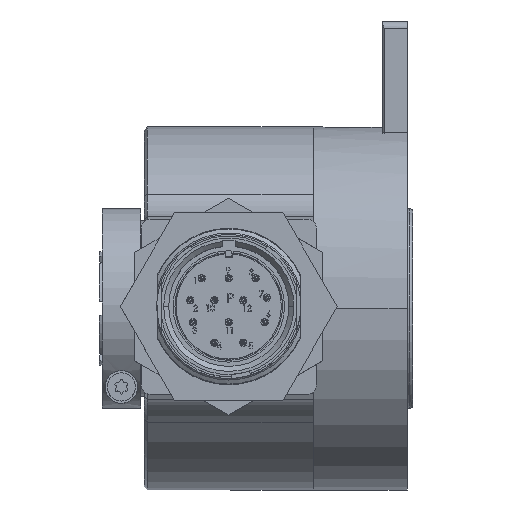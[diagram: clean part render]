
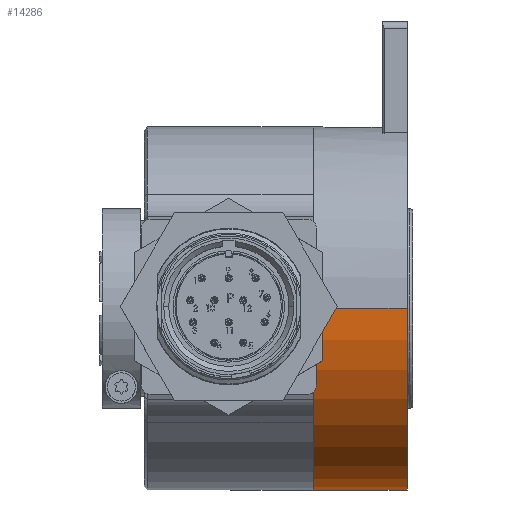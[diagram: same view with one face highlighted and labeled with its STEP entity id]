
A CAD part, top view. The second image highlights one B-rep face of the part: STEP entity #14286.
In plain terms, the highlighted cylindrical face has radius 29 mm (diameter 58 mm), a partial arc.
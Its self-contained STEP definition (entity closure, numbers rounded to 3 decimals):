
#2456 = ORIENTED_EDGE ( 'NONE', *, *, #33459, .F. ) ;
#2919 = ORIENTED_EDGE ( 'NONE', *, *, #42137, .T. ) ;
#3103 = CARTESIAN_POINT ( 'NONE',  ( 15., 0., -29. ) ) ;
#3139 = CARTESIAN_POINT ( 'NONE',  ( 15., 0., 29. ) ) ;
#10326 = EDGE_CURVE ( 'NONE', #49968, #25843, #23445, .T. ) ;
#11659 = CARTESIAN_POINT ( 'NONE',  ( 0., 0., -29. ) ) ;
#11827 = CARTESIAN_POINT ( 'NONE',  ( 0., 0., 0. ) ) ;
#12672 = EDGE_CURVE ( 'NONE', #49968, #14263, #41289, .T. ) ;
#12905 = FACE_OUTER_BOUND ( 'NONE', #38599, .T. ) ;
#13218 = CARTESIAN_POINT ( 'NONE',  ( -21.996, 0., 0. ) ) ;
#14074 = AXIS2_PLACEMENT_3D ( 'NONE', #61073, #53058, #56021 ) ;
#14263 = VERTEX_POINT ( 'NONE', #3139 ) ;
#14286 = ADVANCED_FACE ( 'NONE', ( #12905 ), #17974, .T. ) ;
#17974 = CYLINDRICAL_SURFACE ( 'NONE', #49479, 29. ) ;
#20538 = CIRCLE ( 'NONE', #55778, 29. ) ;
#23445 = LINE ( 'NONE', #38263, #45908 ) ;
#25843 = VERTEX_POINT ( 'NONE', #11659 ) ;
#32192 = DIRECTION ( 'NONE',  ( -1., 0., 0. ) ) ;
#33224 = LINE ( 'NONE', #58390, #57186 ) ;
#33459 = EDGE_CURVE ( 'NONE', #25843, #37778, #20538, .T. ) ;
#33581 = ORIENTED_EDGE ( 'NONE', *, *, #12672, .T. ) ;
#37778 = VERTEX_POINT ( 'NONE', #38105 ) ;
#38105 = CARTESIAN_POINT ( 'NONE',  ( 0., 0., 29. ) ) ;
#38263 = CARTESIAN_POINT ( 'NONE',  ( -21.996, 0., -29. ) ) ;
#38599 = EDGE_LOOP ( 'NONE', ( #57789, #33581, #2919, #2456 ) ) ;
#41289 = CIRCLE ( 'NONE', #14074, 29. ) ;
#42120 = DIRECTION ( 'NONE',  ( 0., 0., 1. ) ) ;
#42137 = EDGE_CURVE ( 'NONE', #14263, #37778, #33224, .T. ) ;
#45908 = VECTOR ( 'NONE', #61918, 1000. ) ;
#46066 = DIRECTION ( 'NONE',  ( 0., 0., 1. ) ) ;
#48937 = DIRECTION ( 'NONE',  ( -1., 0., 0. ) ) ;
#49479 = AXIS2_PLACEMENT_3D ( 'NONE', #13218, #32192, #46066 ) ;
#49968 = VERTEX_POINT ( 'NONE', #3103 ) ;
#53058 = DIRECTION ( 'NONE',  ( -1., 0., 0. ) ) ;
#55778 = AXIS2_PLACEMENT_3D ( 'NONE', #11827, #60108, #42120 ) ;
#56021 = DIRECTION ( 'NONE',  ( 0., 0., 1. ) ) ;
#57186 = VECTOR ( 'NONE', #48937, 1000. ) ;
#57789 = ORIENTED_EDGE ( 'NONE', *, *, #10326, .F. ) ;
#58390 = CARTESIAN_POINT ( 'NONE',  ( -21.996, 0., 29. ) ) ;
#60108 = DIRECTION ( 'NONE',  ( -1., 0., 0. ) ) ;
#61073 = CARTESIAN_POINT ( 'NONE',  ( 15., 0., 0. ) ) ;
#61918 = DIRECTION ( 'NONE',  ( -1., 0., 0. ) ) ;
